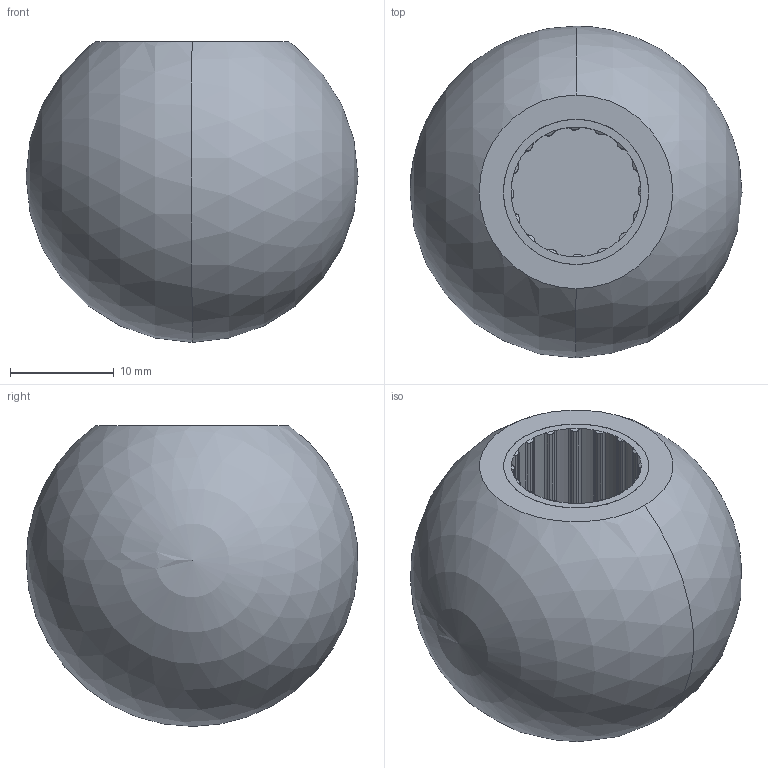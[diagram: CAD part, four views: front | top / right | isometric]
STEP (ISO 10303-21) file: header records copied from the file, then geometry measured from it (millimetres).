
FILE_DESCRIPTION (( 'STEP AP214' ), '1' );
FILE_NAME ('319-KU-32-B12-L.step', '2023-12-18T11:10:12', ( '' ), ( '' ), 'SwSTEP 2.0', 'SolidWorks 2022', '' );
FILE_SCHEMA (( 'AUTOMOTIVE_DESIGN' ));
Length unit declared in the file: millimetre
Products named in the file (1): 319-KU-32-B12-L
Bounding box: 32 x 31.97 x 29 mm (x, y, z)
Volume: 14338.9 mm3; surface area: 4015.8 mm2
Topology: 1 solids, 1 shells, 134 faces, 360 edges, 229 vertices
Faces by surface type: cylinder 111, cone 17, plane 4, sphere 2
Entity records: 4711 total; most frequent: CARTESIAN_POINT 967, DIRECTION 718, ORIENTED_EDGE 710, EDGE_CURVE 355, AXIS2_PLACEMENT_3D 303, VERTEX_POINT 226, CIRCLE 168, EDGE_LOOP 137
